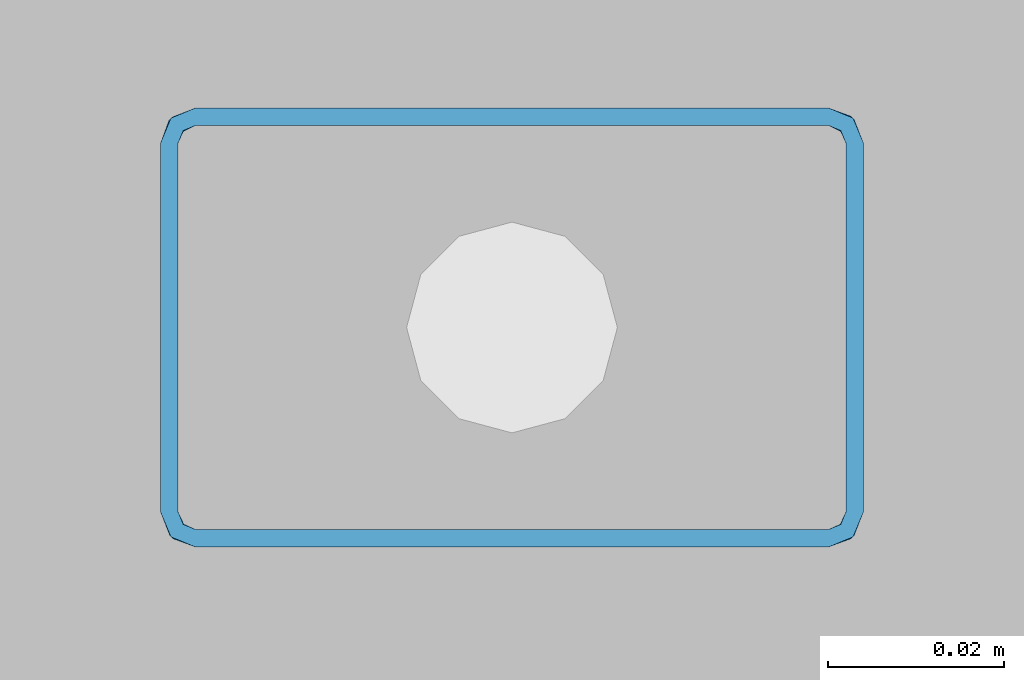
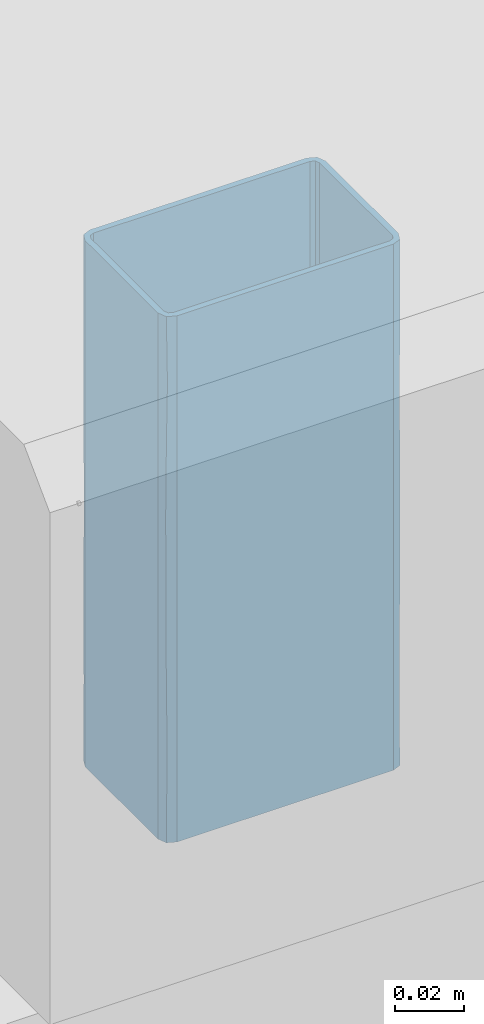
# One storey, part 142 of 186: 1 beam.
"""IFC4X3_ADD2 building model written with IfcOpenShell, lengths in millimetres."""

from ifc_helpers import new_model, si_unit, direction, frame, origin_with_axes, place, context, subcontext, project, spatial, polygons, element, save


model = new_model("IFC4X3_ADD2")

# Units and contexts
model_context = context("Model", 3, precision=1e-05, world=origin_with_axes(), true_north=direction((0.0, 1.0)))
body_context = subcontext(model_context, "Body", "Model", "MODEL_VIEW")
ifc_project = project(units=[si_unit("LENGTHUNIT", "METRE", prefix="MILLI"), si_unit("AREAUNIT", "SQUARE_METRE"), si_unit("VOLUMEUNIT", "CUBIC_METRE"), si_unit("PLANEANGLEUNIT", "RADIAN"), si_unit("TIMEUNIT", "SECOND"), si_unit("MASSUNIT", "GRAM")], contexts=[model_context])

# Site, building, storey
site_placement = place(None, origin_with_axes())
site = spatial("IfcSite", under=ifc_project, at=site_placement, Name="Site", CompositionType="ELEMENT")
building_placement = place(site_placement, origin_with_axes())
building = spatial("IfcBuilding", under=site, at=building_placement, Name="IFC Building Story")
storey_placement = place(building_placement, frame((0.0, 0.0, 4370.0), z_axis=(0.0, 0.0, 1.0), x_axis=(1.0, 0.0, 0.0)))
storey = spatial("IfcBuildingStorey", under=building, at=storey_placement, Name="ETAGE 10 (1)", Elevation=4370.0)

# Beam
beam_placement = place(storey_placement, frame((0.0, 0.0, -4370.0), z_axis=(0.0, 0.0, 1.0), x_axis=(1.0, 0.0, 0.0)))
element("IfcBeam", 1, at=beam_placement, inside=storey, Name="PS9", ObjectType="K50*80*2", context=body_context, shape_type="Tessellation", body=[
    polygons([(40134.18900000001, -14400.99999999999, 7549.598981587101), (40136.18900000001, -14400.99999999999, 7549.598981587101), (40133.60321356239, -14402.41421356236, 7549.598981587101), (40134.18900000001, -14358.99999999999, 7549.598981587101), (40136.18900000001, -14358.99999999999, 7549.598981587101), (40133.60321356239, -14357.58578643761, 7549.598981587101), (40135.01742712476, -14356.17157287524, 7549.598981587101), (40132.18900000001, -14354.99999999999, 7549.598981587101), (40132.18900000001, -14356.99999999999, 7549.598981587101), (40060.18900000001, -14354.99999999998, 7549.598981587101), (40060.18900000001, -14356.99999999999, 7549.598981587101), (40058.77478643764, -14357.58578643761, 7549.598981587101), (40057.36057287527, -14356.17157287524, 7549.598981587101), (40056.18900000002, -14358.99999999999, 7549.598981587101), (40058.18900000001, -14358.99999999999, 7549.598981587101), (40056.18900000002, -14400.99999999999, 7549.598981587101), (40058.18900000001, -14400.99999999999, 7549.598981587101), (40058.77478643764, -14402.41421356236, 7549.598981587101), (40057.36057287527, -14403.82842712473, 7549.598981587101), (40060.18900000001, -14404.99999999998, 7549.598981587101), (40060.18900000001, -14402.99999999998, 7549.598981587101), (40132.18900000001, -14402.99999999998, 7549.598981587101), (40132.18900000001, -14404.99999999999, 7549.598981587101), (40135.01742712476, -14403.82842712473, 7549.598981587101), (40058.18900000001, -14400.99999999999, 7734.598981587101), (40056.18900000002, -14400.99999999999, 7734.598981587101), (40058.77478643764, -14402.41421356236, 7734.598981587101), (40058.18900000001, -14358.99999999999, 7734.598981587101), (40056.18900000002, -14358.99999999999, 7734.598981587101), (40058.77478643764, -14357.58578643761, 7734.598981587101), (40057.36057287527, -14356.17157287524, 7734.598981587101), (40060.18900000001, -14354.99999999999, 7734.598981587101), (40060.18900000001, -14356.99999999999, 7734.598981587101), (40132.18900000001, -14354.99999999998, 7734.598981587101), (40132.18900000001, -14356.99999999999, 7734.598981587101), (40133.60321356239, -14357.58578643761, 7734.598981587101), (40135.01742712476, -14356.17157287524, 7734.598981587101), (40136.18900000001, -14358.99999999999, 7734.598981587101), (40134.18900000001, -14358.99999999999, 7734.598981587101), (40136.18900000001, -14400.99999999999, 7734.598981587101), (40134.18900000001, -14400.99999999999, 7734.598981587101), (40133.60321356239, -14402.41421356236, 7734.598981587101), (40135.01742712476, -14403.82842712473, 7734.598981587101), (40132.18900000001, -14404.99999999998, 7734.598981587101), (40132.18900000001, -14402.99999999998, 7734.598981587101), (40060.18900000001, -14402.99999999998, 7734.598981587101), (40060.18900000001, -14404.99999999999, 7734.598981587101), (40057.36057287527, -14403.82842712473, 7734.598981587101), (40060.18900000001, -14354.99999999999, 7567.057500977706), (40060.18900000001, -14354.99999999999, 7595.848981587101), (40060.18900000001, -14354.99999999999, 7618.973979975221), (40060.18900000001, -14354.99999999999, 7642.098981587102), (40060.18900000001, -14354.99999999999, 7665.22398319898), (40060.18900000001, -14354.99999999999, 7688.348981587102), (40060.18900000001, -14354.99999999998, 7717.140462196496), (40132.18900000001, -14354.99999999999, 7699.681936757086), (40132.18900000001, -14354.99999999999, 7677.016027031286), (40132.18900000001, -14354.99999999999, 7648.224549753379), (40132.18900000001, -14354.99999999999, 7619.433072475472), (40132.18900000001, -14354.99999999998, 7584.516026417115), (40134.87113952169, -14356.03248798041, 7688.348979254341), (40136.18900000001, -14358.99999999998, 7717.140460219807), (40136.18900000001, -14358.99999999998, 7567.057505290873), (40135.13732995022, -14356.29678885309, 7578.945875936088), (40135.13076139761, -14356.28964211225, 7653.661479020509), (40136.18900000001, -14358.99999999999, 7665.223981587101), (40135.13085629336, -14356.28974511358, 7628.466971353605), (40134.76834546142, -14355.94271738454, 7711.526446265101), (40136.18900000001, -14358.99999999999, 7688.348981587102), (40134.75782180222, -14355.93386977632, 7602.891747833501), (40136.18900000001, -14358.99999999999, 7642.098981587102), (40136.18900000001, -14358.99999999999, 7618.9739815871), (40136.18900000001, -14358.99999999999, 7595.848981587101), (40136.18900000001, -14400.99999999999, 7717.140458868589), (40136.18900000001, -14400.99999999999, 7688.348981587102), (40136.18900000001, -14400.99999999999, 7665.223981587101), (40136.18900000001, -14400.99999999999, 7642.098981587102), (40136.18900000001, -14400.99999999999, 7618.9739815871), (40136.18900000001, -14400.99999999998, 7595.848981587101), (40136.18900000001, -14400.99999999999, 7567.057504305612), (40135.13733021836, -14403.70321085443, 7705.252077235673), (40134.76834551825, -14404.05728256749, 7572.671514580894), (40134.87113952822, -14403.96751201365, 7595.848979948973), (40132.18900000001, -14404.99999999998, 7584.516027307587), (40132.18900000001, -14404.99999999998, 7607.181936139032), (40135.13076137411, -14403.71035791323, 7630.536479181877), (40132.18900000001, -14404.99999999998, 7699.681935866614), (40134.75782193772, -14404.06613011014, 7681.306206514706), (40135.13085619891, -14403.71025498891, 7655.73098495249), (40132.18900000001, -14404.99999999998, 7664.764890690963), (40132.18900000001, -14404.99999999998, 7635.973413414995), (40060.18900000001, -14404.99999999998, 7699.681936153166), (40060.18900000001, -14404.99999999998, 7670.890458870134), (40060.18900000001, -14404.99999999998, 7642.098981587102), (40060.18900000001, -14404.99999999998, 7618.973981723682), (40060.18900000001, -14404.99999999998, 7595.848981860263), (40060.18900000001, -14404.99999999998, 7567.057504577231), (40056.18900000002, -14400.99999999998, 7584.516027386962), (40056.18900000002, -14400.99999999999, 7619.433073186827), (40057.34856484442, -14403.81636789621, 7607.411479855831), (40056.18900000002, -14400.99999999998, 7699.681935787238), (40057.36057299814, -14403.8284272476, 7688.348976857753), (40057.60086179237, -14404.04984272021, 7711.473977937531), (40057.53711678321, -14403.99458100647, 7583.376471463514), (40057.22149317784, -14403.68214527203, 7663.470051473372), (40057.29673344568, -14403.76311313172, 7640.418718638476), (40056.18900000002, -14400.99999999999, 7677.01602659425), (40056.18900000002, -14400.99999999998, 7648.224549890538), (40056.18900000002, -14358.99999999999, 7699.681936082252), (40056.18900000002, -14358.99999999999, 7677.016027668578), (40056.18900000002, -14358.99999999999, 7648.224550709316), (40056.18900000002, -14358.99999999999, 7619.433072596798), (40056.18900000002, -14358.99999999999, 7584.516027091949), (40057.22148794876, -14356.31786051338, 7688.348978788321), (40057.48578884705, -14356.05167005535, 7578.945875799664), (40057.4786421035, -14356.05823861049, 7653.661478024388), (40057.47874509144, -14356.05814372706, 7628.466970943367), (40057.13171738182, -14356.42065454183, 7711.526445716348), (40057.12286975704, -14356.43117822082, 7602.891747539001), (40058.82900168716, -14357.53357421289, 7625.929039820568), (40058.18900000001, -14358.99999999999, 7623.66922028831), (40058.87417837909, -14357.49293526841, 7613.583468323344), (40058.61029313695, -14357.77212189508, 7664.531819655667), (40058.7117213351, -14357.65179832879, 7653.749277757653), (40060.18900000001, -14356.99999999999, 7665.223981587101), (40058.82900170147, -14357.53357419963, 7693.738959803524), (40058.18900000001, -14358.99999999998, 7702.259100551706), (40058.18900000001, -14358.99999999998, 7691.479140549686), (40058.18900000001, -14358.99999999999, 7680.699180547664), (40058.70209668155, -14357.6624206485, 7641.817961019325), (40060.18900000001, -14356.99999999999, 7642.098981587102), (40060.18900000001, -14356.99999999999, 7722.253941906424), (40058.77478646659, -14357.58578640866, 7717.646499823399), (40060.18900000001, -14356.99999999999, 7709.90890222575), (40058.78342951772, -14357.57719586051, 7705.830626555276), (40058.18900000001, -14358.99999999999, 7722.25394171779), (40058.18900000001, -14358.99999999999, 7561.94402094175), (40058.77478641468, -14357.58578646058, 7568.11654096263), (40060.18900000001, -14356.99999999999, 7561.944021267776), (40058.18900000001, -14358.99999999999, 7636.014260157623), (40058.18900000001, -14358.99999999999, 7586.634100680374), (40058.72836652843, -14357.63378264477, 7580.461580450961), (40058.77478639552, -14357.58578647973, 7592.806619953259), (40058.71633825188, -14357.64675671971, 7675.309197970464), (40060.18900000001, -14356.99999999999, 7688.348981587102), (40058.18900000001, -14358.99999999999, 7598.979140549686), (40058.18900000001, -14358.99999999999, 7574.289060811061), (40060.18900000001, -14356.99999999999, 7586.63410062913), (40060.18900000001, -14356.99999999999, 7574.289060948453), (40058.18900000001, -14358.99999999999, 7713.039061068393), (40060.18900000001, -14356.99999999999, 7699.128941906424), (40058.18900000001, -14358.99999999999, 7659.139259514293), (40058.18900000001, -14358.99999999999, 7648.359299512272), (40058.18900000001, -14358.99999999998, 7669.919220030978), (40060.18900000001, -14356.99999999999, 7653.661481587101), (40060.18900000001, -14356.99999999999, 7631.319021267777), (40060.18900000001, -14356.99999999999, 7676.786481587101), (40060.18900000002, -14356.99999999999, 7620.539060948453), (40058.18900000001, -14358.99999999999, 7611.324180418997), (40058.633445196, -14357.74292034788, 7603.287688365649), (40060.18900000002, -14356.99999999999, 7609.759100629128), (40060.18900000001, -14356.99999999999, 7598.979140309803), (40058.18900000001, -14400.99999999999, 7722.253941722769), (40058.18900000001, -14400.99999999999, 7709.908901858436), (40058.18900000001, -14400.99999999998, 7699.128941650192), (40058.18900000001, -14400.99999999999, 7688.348981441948), (40058.18900000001, -14400.99999999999, 7676.786481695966), (40058.18900000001, -14400.99999999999, 7665.223981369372), (40058.18900000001, -14400.99999999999, 7653.661481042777), (40058.18900000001, -14400.99999999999, 7642.098981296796), (40058.18900000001, -14400.99999999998, 7630.536481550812), (40058.18900000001, -14400.99999999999, 7618.973981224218), (40058.18900000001, -14400.99999999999, 7607.411480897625), (40058.18900000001, -14400.99999999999, 7595.848981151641), (40058.18900000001, -14400.99999999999, 7585.069020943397), (40058.18900000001, -14400.99999999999, 7574.289060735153), (40058.18900000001, -14400.99999999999, 7561.944021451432), (40058.70496062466, -14402.3407561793, 7659.44273014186), (40058.66485584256, -14402.29498439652, 7647.880618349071), (40058.87424681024, -14402.50712443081, 7621.237918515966), (40058.70296043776, -14402.33853891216, 7636.317730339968), (40060.18900000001, -14402.99999999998, 7625.058702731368), (40060.18900000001, -14402.99999999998, 7561.944020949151), (40058.77478644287, -14402.41421356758, 7566.551461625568), (40060.18900000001, -14402.99999999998, 7571.158902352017), (40058.72257418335, -14402.35999828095, 7579.67904054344), (40058.70041971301, -14402.33571281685, 7694.823087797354), (40058.71734898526, -14402.35434238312, 7682.567730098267), (40060.18900000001, -14402.99999999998, 7648.18370400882), (40058.73451716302, -14402.37276351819, 7591.347273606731), (40060.18900000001, -14402.99999999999, 7581.938862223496), (40060.18900000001, -14402.99999999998, 7722.25394222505), (40060.18900000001, -14402.99999999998, 7685.218823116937), (40058.77478642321, -14402.41421354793, 7716.08142123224), (40060.18900000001, -14402.99999999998, 7709.908901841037), (40060.18900000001, -14402.99999999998, 7672.873782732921), (40058.66529696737, -14402.29550340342, 7671.008022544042), (40060.18900000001, -14402.99999999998, 7660.528743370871), (40058.83575669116, -14402.47266172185, 7608.888762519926), (40060.18900000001, -14402.99999999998, 7614.278742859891), (40060.18900000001, -14402.99999999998, 7603.498782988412), (40060.18900000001, -14402.99999999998, 7592.718822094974), (40060.18900000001, -14402.99999999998, 7697.563862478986), (40058.91915055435, -14402.54514801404, 7705.388109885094), (40060.18900000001, -14402.99999999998, 7635.838663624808), (40132.18900000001, -14402.99999999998, 7722.253942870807), (40132.18900000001, -14402.99999999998, 7711.473981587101), (40132.18900000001, -14402.99999999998, 7699.9114815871), (40132.18900000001, -14402.99999999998, 7688.348981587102), (40132.18900000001, -14402.99999999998, 7676.786481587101), (40132.18900000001, -14402.99999999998, 7665.223981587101), (40132.18900000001, -14402.99999999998, 7653.661481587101), (40132.18900000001, -14402.99999999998, 7642.098981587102), (40132.18900000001, -14402.99999999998, 7630.536481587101), (40132.18900000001, -14402.99999999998, 7618.9739815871), (40132.18900000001, -14402.99999999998, 7607.411481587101), (40132.18900000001, -14402.99999999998, 7595.848981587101), (40132.18900000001, -14402.99999999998, 7585.069020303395), (40132.18900000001, -14402.99999999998, 7574.289060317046), (40132.18900000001, -14402.99999999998, 7561.944020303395), (40133.52975615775, -14402.48403939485, 7659.442730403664), (40133.48398437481, -14402.52414417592, 7647.880618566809), (40133.69612441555, -14402.31475320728, 7621.237918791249), (40133.52753889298, -14402.48603957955, 7636.317730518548), (40134.18900000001, -14400.99999999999, 7625.058703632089), (40133.47519377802, -14402.53156964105, 7705.518256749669), (40134.18900000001, -14400.99999999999, 7561.944022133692), (40133.60321356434, -14402.41421356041, 7566.551461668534), (40134.18900000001, -14400.99999999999, 7571.158902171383), (40134.18900000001, -14400.99999999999, 7722.253942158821), (40133.54899827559, -14402.46642582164, 7579.679040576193), (40134.18900000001, -14400.99999999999, 7685.218822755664), (40133.55431837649, -14402.46147382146, 7694.130230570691), (40134.18900000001, -14400.99999999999, 7697.563862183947), (40133.67461845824, -14402.33900627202, 7679.046301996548), (40133.56176351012, -14402.45448284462, 7591.347273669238), (40134.18900000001, -14400.99999999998, 7581.938862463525), (40134.18900000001, -14400.99999999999, 7709.908902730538), (40133.60321354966, -14402.41421357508, 7716.86396120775), (40134.18900000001, -14400.99999999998, 7648.183703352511), (40134.18900000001, -14400.99999999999, 7672.873783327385), (40134.18900000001, -14400.99999999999, 7660.528742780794), (40133.66166170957, -14402.35324332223, 7608.888762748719), (40134.18900000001, -14400.99999999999, 7614.278743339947), (40134.18900000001, -14400.99999999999, 7603.498783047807), (40134.18900000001, -14400.99999999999, 7592.718822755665), (40134.18900000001, -14400.99999999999, 7635.838663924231), (40134.18900000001, -14358.99999999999, 7722.253941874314), (40134.18900000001, -14358.99999999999, 7709.908902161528), (40134.18900000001, -14358.99999999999, 7697.563862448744), (40134.18900000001, -14358.99999999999, 7685.218822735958), (40134.18900000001, -14358.99999999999, 7672.873783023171), (40134.18900000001, -14358.99999999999, 7660.528743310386), (40134.18900000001, -14358.99999999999, 7648.183703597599), (40134.18900000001, -14358.99999999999, 7635.838663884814), (40134.18900000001, -14358.99999999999, 7625.0587035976), (40134.18900000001, -14358.99999999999, 7614.278743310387), (40134.18900000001, -14358.99999999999, 7603.498783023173), (40134.18900000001, -14358.99999999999, 7592.718822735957), (40134.18900000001, -14358.99999999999, 7581.938862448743), (40134.18900000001, -14358.99999999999, 7571.158902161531), (40134.18900000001, -14358.99999999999, 7561.944021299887), (40133.76770674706, -14357.77212174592, 7619.666140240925), (40133.66627859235, -14357.65179824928, 7630.448682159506), (40132.18900000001, -14356.99999999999, 7618.973981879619), (40133.5489982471, -14357.5335741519, 7658.268919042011), (40133.50382159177, -14357.49293524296, 7670.614489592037), (40133.60321360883, -14357.58578648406, 7716.081418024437), (40133.60321362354, -14357.58578649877, 7702.876051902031), (40132.18900000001, -14356.99999999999, 7709.908902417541), (40132.18900000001, -14356.99999999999, 7642.098981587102), (40133.67590326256, -14357.66242058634, 7642.379998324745), (40133.54899825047, -14357.53357415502, 7590.459000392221), (40133.59457048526, -14357.57719586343, 7578.367333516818), (40132.18900000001, -14356.99999999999, 7574.289060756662), (40133.60321356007, -14357.58578643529, 7566.551461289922), (40133.66166167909, -14357.64675664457, 7608.888761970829), (40132.18900000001, -14356.99999999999, 7595.848981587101), (40132.18900000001, -14356.99999999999, 7697.563862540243), (40133.60321352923, -14357.58578640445, 7690.510053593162), (40132.18900000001, -14356.99999999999, 7722.253941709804), (40132.18900000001, -14356.99999999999, 7561.944021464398), (40132.18900000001, -14356.99999999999, 7585.069021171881), (40132.18900000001, -14356.99999999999, 7630.536482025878), (40132.18900000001, -14356.99999999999, 7652.878942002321), (40132.18900000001, -14356.99999999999, 7607.41148173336), (40132.18900000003, -14356.99999999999, 7663.658901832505), (40132.18900000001, -14356.99999999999, 7674.438862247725), (40132.18900000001, -14356.99999999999, 7685.218822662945)], [[[1, 2, 3]], [[2, 1, 4]], [[4, 5, 2]], [[6, 5, 4]], [[7, 5, 6]], [[6, 8, 7]], [[6, 9, 8]], [[8, 9, 10]], [[11, 10, 9]], [[11, 12, 10]], [[10, 12, 13]], [[14, 13, 12]], [[14, 12, 15]], [[14, 15, 16]], [[17, 16, 15]], [[18, 16, 17]], [[16, 18, 19]], [[18, 20, 19]], [[21, 20, 18]], [[20, 21, 22]], [[3, 23, 22]], [[22, 23, 20]], [[3, 2, 24]], [[23, 3, 24]], [[25, 26, 27]], [[26, 25, 28]], [[28, 29, 26]], [[30, 29, 28]], [[31, 29, 30]], [[30, 32, 31]], [[30, 33, 32]], [[32, 33, 34]], [[35, 34, 33]], [[35, 36, 34]], [[34, 36, 37]], [[38, 37, 36]], [[38, 36, 39]], [[38, 39, 40]], [[41, 40, 39]], [[42, 40, 41]], [[40, 42, 43]], [[42, 44, 43]], [[45, 44, 42]], [[44, 45, 46]], [[27, 47, 46]], [[46, 47, 44]], [[27, 26, 48]], [[47, 27, 48]], [[55, 32, 34]], [[56, 57, 54]], [[54, 55, 34]], [[54, 34, 56]], [[57, 53, 54]], [[57, 58, 52]], [[57, 52, 53]], [[58, 59, 51]], [[58, 51, 52]], [[59, 60, 50]], [[59, 50, 51]], [[60, 8, 49]], [[60, 49, 50]], [[8, 10, 49]], [[61, 57, 56]], [[37, 38, 62]], [[63, 5, 7]], [[7, 8, 64]], [[61, 65, 57]], [[66, 65, 61]], [[67, 59, 58]], [[61, 68, 69]], [[61, 56, 68]], [[8, 60, 64]], [[67, 70, 59]], [[34, 37, 68]], [[64, 60, 70]], [[68, 62, 69]], [[58, 65, 67]], [[65, 66, 71]], [[61, 69, 66]], [[65, 71, 67]], [[57, 65, 58]], [[70, 72, 73]], [[72, 70, 67]], [[64, 73, 63]], [[60, 59, 70]], [[34, 68, 56]], [[62, 68, 37]], [[67, 71, 72]], [[73, 64, 70]], [[7, 64, 63]], [[62, 38, 40]], [[62, 40, 74]], [[74, 75, 69]], [[74, 69, 62]], [[75, 76, 66]], [[75, 66, 69]], [[76, 77, 71]], [[76, 71, 66]], [[77, 78, 72]], [[77, 72, 71]], [[78, 79, 73]], [[78, 73, 72]], [[79, 80, 63]], [[79, 63, 73]], [[80, 2, 5]], [[80, 5, 63]], [[43, 44, 81]], [[82, 79, 83]], [[84, 83, 85]], [[82, 80, 79]], [[83, 86, 85]], [[24, 2, 80]], [[74, 40, 43]], [[78, 86, 83]], [[81, 44, 87]], [[87, 88, 81]], [[89, 90, 91]], [[89, 88, 90]], [[23, 24, 82]], [[83, 84, 82]], [[91, 86, 89]], [[86, 78, 77]], [[83, 79, 78]], [[86, 77, 89]], [[85, 86, 91]], [[88, 76, 75]], [[76, 88, 89]], [[81, 75, 74]], [[87, 90, 88]], [[23, 82, 84]], [[80, 82, 24]], [[89, 77, 76]], [[75, 81, 88]], [[43, 81, 74]], [[87, 44, 47]], [[87, 47, 92]], [[92, 93, 90]], [[92, 90, 87]], [[93, 94, 91]], [[93, 91, 90]], [[95, 96, 85]], [[85, 91, 94]], [[85, 94, 95]], [[96, 84, 85]], [[97, 20, 23]], [[97, 23, 84]], [[84, 96, 97]], [[98, 16, 19]], [[99, 98, 100]], [[101, 102, 103]], [[19, 97, 104]], [[48, 103, 47]], [[94, 105, 106]], [[93, 102, 105]], [[96, 100, 104]], [[105, 102, 107]], [[26, 101, 103]], [[100, 106, 99]], [[19, 20, 97]], [[101, 107, 102]], [[105, 94, 93]], [[103, 102, 92]], [[93, 92, 102]], [[107, 108, 105]], [[105, 108, 106]], [[47, 103, 92]], [[103, 48, 26]], [[108, 99, 106]], [[96, 95, 100]], [[100, 95, 106]], [[95, 94, 106]], [[104, 100, 98]], [[19, 104, 98]], [[97, 96, 104]], [[101, 26, 29]], [[101, 29, 109]], [[109, 110, 107]], [[109, 107, 101]], [[110, 111, 108]], [[110, 108, 107]], [[111, 112, 99]], [[111, 99, 108]], [[112, 113, 98]], [[112, 98, 99]], [[113, 14, 16]], [[113, 16, 98]], [[114, 110, 109]], [[31, 32, 55]], [[49, 10, 13]], [[13, 14, 115]], [[114, 116, 110]], [[53, 116, 114]], [[117, 112, 111]], [[114, 118, 54]], [[114, 109, 118]], [[14, 113, 115]], [[117, 119, 112]], [[29, 31, 118]], [[115, 113, 119]], [[118, 55, 54]], [[111, 116, 117]], [[116, 53, 52]], [[114, 54, 53]], [[116, 52, 117]], [[110, 116, 111]], [[119, 51, 50]], [[51, 119, 117]], [[115, 50, 49]], [[113, 112, 119]], [[29, 118, 109]], [[55, 118, 31]], [[117, 52, 51]], [[50, 115, 119]], [[13, 115, 49]], [[120, 121, 122]], [[123, 124, 125]], [[126, 127, 128, 129]], [[124, 130, 131]], [[132, 30, 133]], [[134, 133, 135]], [[30, 28, 136]], [[137, 15, 12]], [[138, 12, 139]], [[120, 130, 140]], [[141, 142, 143]], [[144, 145, 126]], [[141, 143, 146]], [[137, 138, 147]], [[148, 142, 149]], [[30, 136, 133]], [[150, 133, 136]], [[12, 11, 139]], [[132, 33, 30]], [[12, 138, 137]], [[133, 134, 132]], [[150, 127, 135]], [[135, 126, 151]], [[150, 135, 133]], [[151, 126, 145]], [[152, 153, 124]], [[129, 154, 144]], [[124, 131, 155, 125]], [[130, 120, 156]], [[144, 154, 123]], [[157, 145, 144, 125]], [[129, 144, 126]], [[152, 123, 154]], [[158, 120, 122]], [[142, 138, 149]], [[142, 141, 147]], [[149, 138, 139]], [[159, 122, 121]], [[153, 130, 124]], [[159, 160, 122]], [[156, 120, 158]], [[121, 120, 140]], [[143, 160, 146]], [[161, 158, 122]], [[143, 162, 160]], [[148, 162, 143]], [[143, 142, 148]], [[138, 142, 147]], [[144, 123, 125]], [[124, 123, 152]], [[134, 135, 151]], [[135, 127, 126]], [[146, 160, 159]], [[162, 161, 160]], [[161, 122, 160]], [[156, 131, 130]], [[140, 130, 153]], [[136, 28, 25]], [[136, 25, 163]], [[163, 164, 150]], [[163, 150, 136]], [[164, 165, 127]], [[164, 127, 150]], [[165, 166, 128]], [[165, 128, 127]], [[166, 167, 129]], [[166, 129, 128]], [[167, 168, 154]], [[167, 154, 129]], [[168, 169, 152]], [[168, 152, 154]], [[169, 153, 152]], [[170, 171, 140]], [[140, 153, 169]], [[140, 169, 170]], [[171, 172, 121]], [[171, 121, 140]], [[172, 173, 159]], [[172, 159, 121]], [[173, 174, 146]], [[173, 146, 159]], [[174, 175, 141]], [[174, 141, 146]], [[175, 176, 147]], [[175, 147, 141]], [[176, 177, 137]], [[176, 137, 147]], [[177, 17, 15]], [[177, 15, 137]], [[178, 179, 169]], [[180, 181, 182]], [[163, 25, 27]], [[18, 17, 177]], [[183, 184, 185]], [[176, 175, 186]], [[187, 188, 166]], [[166, 188, 167]], [[189, 179, 178]], [[190, 186, 175]], [[186, 190, 191]], [[183, 21, 18]], [[46, 192, 27]], [[187, 193, 188]], [[163, 194, 164]], [[195, 194, 192]], [[185, 186, 191]], [[27, 194, 163]], [[196, 197, 188]], [[169, 168, 178]], [[18, 177, 176, 184]], [[198, 189, 178]], [[18, 184, 183]], [[186, 185, 184]], [[199, 200, 201]], [[176, 186, 184]], [[202, 191, 190, 201]], [[27, 192, 194]], [[190, 199, 201]], [[179, 181, 170]], [[197, 196, 198]], [[178, 168, 197]], [[193, 196, 188]], [[197, 167, 188]], [[187, 203, 193]], [[195, 204, 194]], [[165, 164, 204]], [[180, 199, 172]], [[172, 199, 174, 173]], [[199, 190, 174]], [[180, 200, 199]], [[205, 182, 181, 189]], [[171, 181, 180]], [[204, 195, 203]], [[187, 165, 204]], [[170, 181, 171]], [[180, 172, 171]], [[169, 179, 170]], [[181, 179, 189]], [[167, 197, 168]], [[198, 178, 197]], [[182, 200, 180]], [[187, 166, 165]], [[194, 204, 164]], [[187, 204, 203]], [[174, 190, 175]], [[192, 46, 45]], [[192, 45, 206]], [[206, 207, 195]], [[206, 195, 192]], [[207, 208, 203]], [[207, 203, 195]], [[208, 209, 193]], [[208, 193, 203]], [[209, 210, 196]], [[209, 196, 193]], [[210, 211, 198]], [[210, 198, 196]], [[211, 212, 189]], [[211, 189, 198]], [[213, 214, 205]], [[213, 205, 189]], [[189, 212, 213]], [[214, 182, 205]], [[214, 215, 200]], [[214, 200, 182]], [[215, 216, 201]], [[215, 201, 200]], [[216, 217, 202]], [[216, 202, 201]], [[217, 218, 191]], [[217, 191, 202]], [[218, 219, 185]], [[218, 185, 191]], [[219, 220, 183]], [[219, 183, 185]], [[220, 22, 21]], [[220, 21, 183]], [[221, 222, 212]], [[223, 224, 225]], [[208, 207, 226]], [[227, 1, 3]], [[227, 3, 228]], [[228, 229, 227]], [[42, 41, 230]], [[219, 218, 231]], [[232, 233, 234]], [[233, 235, 209]], [[208, 233, 209]], [[236, 231, 218]], [[231, 236, 237]], [[238, 226, 239]], [[206, 239, 207]], [[208, 226, 233]], [[206, 45, 42]], [[220, 219, 228]], [[228, 3, 22]], [[228, 22, 220]], [[229, 231, 237]], [[42, 230, 239]], [[42, 239, 206]], [[239, 230, 238]], [[240, 222, 221]], [[221, 235, 241]], [[212, 211, 221]], [[242, 240, 221, 241]], [[231, 229, 228]], [[243, 244, 245]], [[219, 231, 228]], [[246, 237, 236, 245]], [[241, 235, 232]], [[238, 234, 226]], [[222, 224, 213]], [[210, 209, 235, 211]], [[235, 221, 211]], [[236, 243, 245]], [[223, 243, 215]], [[215, 243, 217, 216]], [[243, 236, 217]], [[223, 244, 243]], [[247, 225, 224, 240]], [[214, 224, 223]], [[213, 224, 214]], [[223, 215, 214]], [[232, 235, 233]], [[212, 222, 213]], [[224, 222, 240]], [[234, 233, 226]], [[239, 226, 207]], [[225, 244, 223]], [[217, 236, 218]], [[230, 41, 39]], [[230, 39, 248]], [[248, 249, 238]], [[248, 238, 230]], [[249, 250, 234]], [[249, 234, 238]], [[250, 251, 232]], [[250, 232, 234]], [[251, 252, 241]], [[251, 241, 232]], [[252, 253, 242]], [[252, 242, 241]], [[253, 254, 240]], [[253, 240, 242]], [[254, 255, 247]], [[254, 247, 240]], [[255, 256, 225]], [[255, 225, 247]], [[256, 257, 244]], [[256, 244, 225]], [[257, 258, 245]], [[257, 245, 244]], [[258, 259, 246]], [[258, 246, 245]], [[259, 260, 237]], [[259, 237, 246]], [[260, 261, 229]], [[260, 229, 237]], [[261, 262, 227]], [[261, 227, 229]], [[262, 4, 1]], [[262, 1, 227]], [[263, 264, 265]], [[266, 253, 267]], [[249, 248, 268]], [[269, 268, 270]], [[271, 264, 272]], [[273, 260, 259, 258]], [[261, 260, 274]], [[275, 276, 274]], [[266, 272, 254]], [[262, 261, 276]], [[276, 6, 4]], [[276, 4, 262]], [[248, 39, 36]], [[277, 278, 273]], [[269, 279, 280]], [[35, 281, 36]], [[282, 9, 6]], [[36, 268, 248]], [[282, 6, 276]], [[281, 270, 268]], [[282, 276, 275]], [[274, 273, 283]], [[261, 274, 276]], [[283, 273, 278]], [[256, 255, 264]], [[258, 257, 277]], [[264, 271, 284, 265]], [[272, 266, 285]], [[277, 257, 263]], [[286, 278, 277, 265]], [[258, 277, 273]], [[256, 263, 257]], [[36, 281, 268]], [[249, 268, 269]], [[252, 251, 267, 253]], [[255, 272, 264]], [[287, 266, 267]], [[285, 266, 287]], [[253, 266, 254]], [[250, 249, 269]], [[280, 250, 269]], [[288, 287, 267, 289]], [[280, 289, 267]], [[277, 263, 265]], [[251, 250, 280]], [[269, 270, 279]], [[264, 263, 256]], [[275, 274, 283]], [[274, 260, 273]], [[285, 271, 272]], [[254, 272, 255]], [[251, 280, 267]], [[289, 280, 279]], [[281, 35, 33]], [[281, 33, 132]], [[132, 134, 270]], [[132, 270, 281]], [[134, 151, 279]], [[134, 279, 270]], [[151, 145, 289]], [[151, 289, 279]], [[145, 157, 288]], [[145, 288, 289]], [[157, 125, 287]], [[157, 287, 288]], [[125, 155, 285]], [[125, 285, 287]], [[155, 131, 271]], [[155, 271, 285]], [[131, 156, 284]], [[131, 284, 271]], [[156, 158, 265]], [[156, 265, 284]], [[158, 161, 286]], [[158, 286, 265]], [[161, 162, 278]], [[161, 278, 286]], [[162, 148, 283]], [[162, 283, 278]], [[148, 149, 275]], [[148, 275, 283]], [[149, 139, 282]], [[149, 282, 275]], [[139, 11, 9]], [[139, 9, 282]]]),
])

save(model, "model.ifc")
